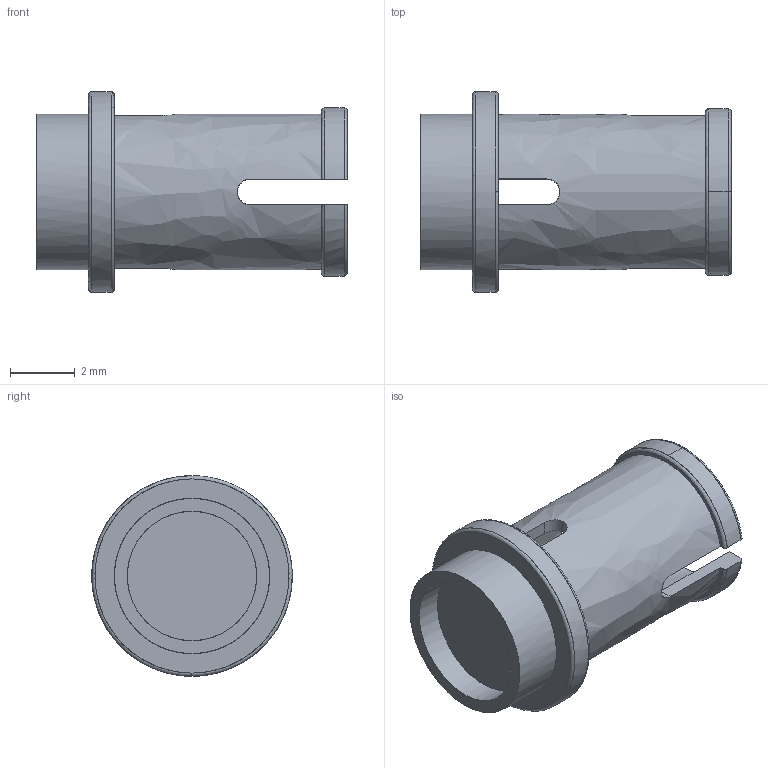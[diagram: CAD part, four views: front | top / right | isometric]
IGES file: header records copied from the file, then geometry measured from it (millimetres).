
Start section: C
Global section: file name: ClGray_4211483_MCM.iges; native system: By Siemens PLM Incorporated; preprocessor: XPlus GENERIC/IGES 26.1.183; author: Author; organization: Title; date: 20250721.235022; units: millimetre
Bounding box: 9.6 x 6.19 x 6.2 mm (x, y, z)
Surface area: 306.9 mm2 (no closed solid volume)
Topology: 0 solids, 0 shells, 36 faces, 278 edges, 278 vertices
Faces by surface type: bspline 36
